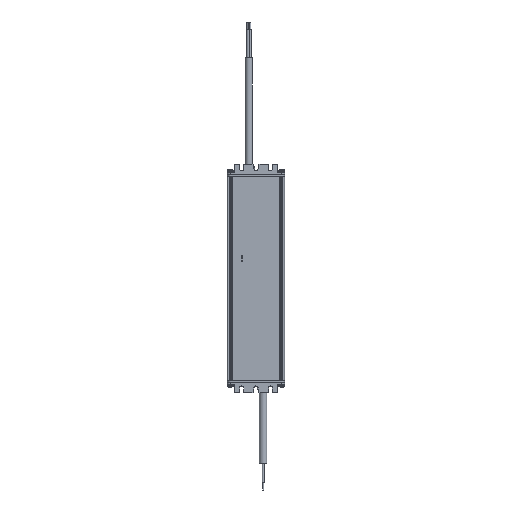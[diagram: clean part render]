
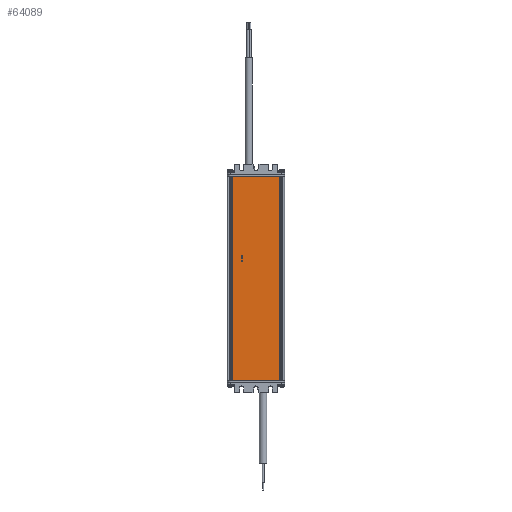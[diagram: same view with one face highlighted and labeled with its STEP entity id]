
A CAD part, front view. The second image highlights one B-rep face of the part: STEP entity #64089.
In plain terms, the highlighted planar face has unit normal (0, -1, 0).
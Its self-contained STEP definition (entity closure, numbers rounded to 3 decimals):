
#3545 = VECTOR ( 'NONE', #62790, 1000. ) ;
#5638 = EDGE_CURVE ( 'NONE', #26955, #16987, #83226, .T. ) ;
#6256 = DIRECTION ( 'NONE',  ( 0., 0., -1. ) ) ;
#8802 = DIRECTION ( 'NONE',  ( 1., 0., 0. ) ) ;
#14124 = LINE ( 'NONE', #70226, #3545 ) ;
#14335 = ORIENTED_EDGE ( 'NONE', *, *, #5638, .F. ) ;
#16987 = VERTEX_POINT ( 'NONE', #30761 ) ;
#17719 = ORIENTED_EDGE ( 'NONE', *, *, #90229, .T. ) ;
#18742 = EDGE_CURVE ( 'NONE', #45966, #39905, #43298, .T. ) ;
#23241 = EDGE_LOOP ( 'NONE', ( #17719, #14335, #105714, #43124 ) ) ;
#26955 = VERTEX_POINT ( 'NONE', #50598 ) ;
#27231 = EDGE_CURVE ( 'NONE', #45966, #26955, #14124, .T. ) ;
#29573 = PLANE ( 'NONE',  #91813 ) ;
#29936 = CARTESIAN_POINT ( 'NONE',  ( 163.339, 84.454, 215. ) ) ;
#30290 = DIRECTION ( 'NONE',  ( 0., 0., 1. ) ) ;
#30761 = CARTESIAN_POINT ( 'NONE',  ( 212.705, 84.454, 0. ) ) ;
#32015 = LINE ( 'NONE', #77266, #77248 ) ;
#38482 = DIRECTION ( 'NONE',  ( 0., 1., 0. ) ) ;
#39905 = VERTEX_POINT ( 'NONE', #60781 ) ;
#43124 = ORIENTED_EDGE ( 'NONE', *, *, #18742, .T. ) ;
#43298 = LINE ( 'NONE', #74329, #101765 ) ;
#45966 = VERTEX_POINT ( 'NONE', #78637 ) ;
#50598 = CARTESIAN_POINT ( 'NONE',  ( 212.705, 84.454, 215. ) ) ;
#56817 = CARTESIAN_POINT ( 'NONE',  ( 212.705, 84.454, 215. ) ) ;
#60781 = CARTESIAN_POINT ( 'NONE',  ( 163.339, 84.454, 0. ) ) ;
#62790 = DIRECTION ( 'NONE',  ( 1., 0., 0. ) ) ;
#64089 = ADVANCED_FACE ( 'NONE', ( #69862 ), #29573, .F. ) ;
#69862 = FACE_OUTER_BOUND ( 'NONE', #23241, .T. ) ;
#70226 = CARTESIAN_POINT ( 'NONE',  ( 163.339, 84.454, 215. ) ) ;
#74329 = CARTESIAN_POINT ( 'NONE',  ( 163.339, 84.454, 215. ) ) ;
#76635 = VECTOR ( 'NONE', #6256, 1000. ) ;
#77248 = VECTOR ( 'NONE', #8802, 1000. ) ;
#77266 = CARTESIAN_POINT ( 'NONE',  ( 163.339, 84.454, 0. ) ) ;
#78637 = CARTESIAN_POINT ( 'NONE',  ( 163.339, 84.454, 215. ) ) ;
#83226 = LINE ( 'NONE', #56817, #76635 ) ;
#90229 = EDGE_CURVE ( 'NONE', #39905, #16987, #32015, .T. ) ;
#91008 = DIRECTION ( 'NONE',  ( 0., 0., -1. ) ) ;
#91813 = AXIS2_PLACEMENT_3D ( 'NONE', #29936, #38482, #30290 ) ;
#101765 = VECTOR ( 'NONE', #91008, 1000. ) ;
#105714 = ORIENTED_EDGE ( 'NONE', *, *, #27231, .F. ) ;
